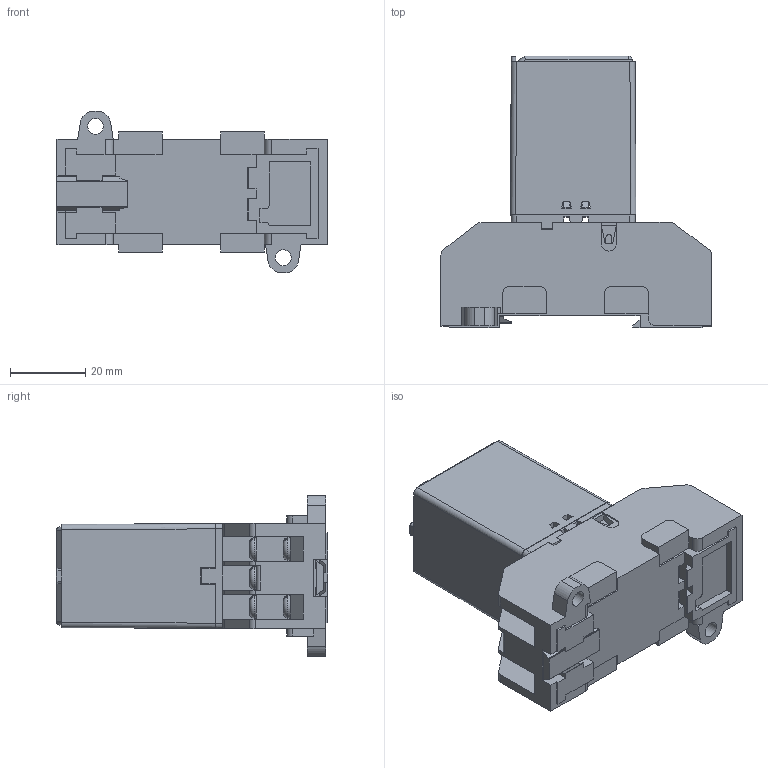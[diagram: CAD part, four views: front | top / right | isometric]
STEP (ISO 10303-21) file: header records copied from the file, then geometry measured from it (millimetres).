
FILE_DESCRIPTION(('STEP AP214'), '1');
FILE_NAME('Êîëîäêà ÐÏ21-003 òèï 3', '', ('UNSPECIFIED'), ('UNSPECIFIED'), 'ASCON STEP Converter 1.6', 'ASCON Math Kernel', '');
FILE_SCHEMA(('AUTOMOTIVE_DESIGN { 1 0 10303 214 3 1 1}'));
Length unit declared in the file: millimetre
Assembly tree (16 placements, depth 3):
  (unnamed)
    (unnamed)
    (unnamed)  x11
      (unnamed)
      (unnamed)
    (unnamed)
    (unnamed)
Bounding box: 72.1 x 72.32 x 43 mm (x, y, z)
Volume: 52861 mm3; surface area: 32104.9 mm2
Topology: 25 solids, 25 shells, 1284 faces, 3380 edges, 2211 vertices
Faces by surface type: plane 1024, cylinder 224, torus 13, cone 13, bspline 8, sphere 2
Full cylindrical faces by diameter (mm): 1 x5, 2.5 x2, 2.85 x11, 2.9 x2, 3 x11, 3.2 x1, 4.2 x2, 4.5 x2, 6 x13
Entity records: 44584 total; most frequent: CARTESIAN_POINT 6856, ORIENTED_EDGE 5970, DIRECTION 5616, EDGE_CURVE 2985, LINE 2546, VECTOR 2546, VERTEX_POINT 1971, AXIS2_PLACEMENT_3D 1535
